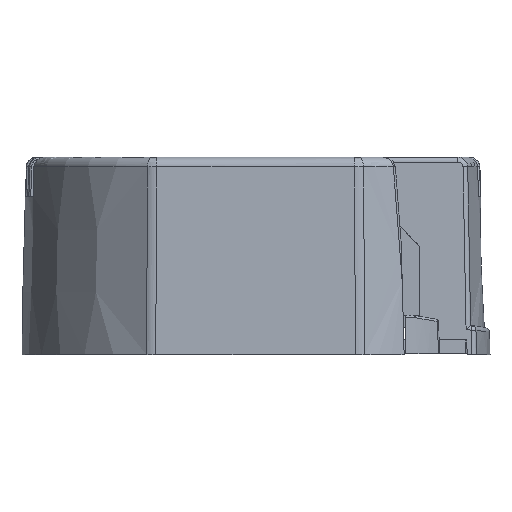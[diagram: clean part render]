
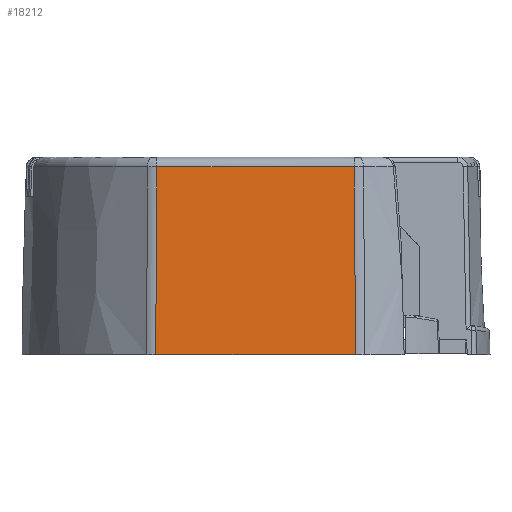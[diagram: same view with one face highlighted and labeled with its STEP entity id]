
A CAD part, left-side view. The second image highlights one B-rep face of the part: STEP entity #18212.
In plain terms, the highlighted planar face has unit normal (-1, 0, 0.026).
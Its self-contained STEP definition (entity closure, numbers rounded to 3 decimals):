
#181=CARTESIAN_POINT('',(-21.25,7.989,0.));
#183=DIRECTION('',(0.,-1.,0.));
#184=VECTOR('',#183,20.249);
#185=CARTESIAN_POINT('',(-21.25,7.989,0.));
#186=LINE('',#185,#184);
#4746=CARTESIAN_POINT('',(-20.752,7.866,19.026));
#4773=CARTESIAN_POINT('',(-20.752,-12.136,
19.026));
#5401=CARTESIAN_POINT('',(-21.25,7.989,
0.));
#5402=CARTESIAN_POINT('',(-21.084,7.948,6.342));
#5403=CARTESIAN_POINT('',(-20.918,7.906,12.684));
#5404=CARTESIAN_POINT('',(-20.752,7.866,19.026));
#5406=DIRECTION('',(0.,-1.,0.));
#5407=VECTOR('',#5406,20.001);
#5408=CARTESIAN_POINT('',(-20.752,7.866,19.026));
#5409=LINE('',#5408,#5407);
#5410=CARTESIAN_POINT('',(-20.752,-12.136,
19.026));
#5411=CARTESIAN_POINT('',(-20.918,-12.177,
12.684));
#5412=CARTESIAN_POINT('',(-21.084,-12.219,
6.342));
#5413=CARTESIAN_POINT('',(-21.25,-12.26,
0.));
#11557=VERTEX_POINT('',#181);
#11558=CARTESIAN_POINT('',(-21.25,-12.26,
0.));
#11559=VERTEX_POINT('',#11558);
#11872=VERTEX_POINT('',#4746);
#11873=VERTEX_POINT('',#4773);
#18201=CARTESIAN_POINT('',(-21.25,10.273,0.));
#18202=DIRECTION('',(-1.,0.,0.026));
#18203=DIRECTION('',(0.026,0.,1.));
#18204=AXIS2_PLACEMENT_3D('',#18201,#18202,#18203);
#18205=PLANE('',#18204);
#18206=ORIENTED_EDGE('',*,*,#17678,.T.);
#18207=ORIENTED_EDGE('',*,*,#17719,.T.);
#18208=ORIENTED_EDGE('',*,*,#18192,.T.);
#18209=ORIENTED_EDGE('',*,*,#13524,.F.);
#18210=EDGE_LOOP('',(#18206,#18207,#18208,#18209));
#18211=FACE_OUTER_BOUND('',#18210,.F.);
#18212=ADVANCED_FACE('',(#18211),#18205,.T.);
#5405=B_SPLINE_CURVE_WITH_KNOTS('',3,(#5401,#5402,#5403,#5404),.UNSPECIFIED.,
.F.,.F.,(4,4),(0.,1.),.UNSPECIFIED.);
#5414=B_SPLINE_CURVE_WITH_KNOTS('',3,(#5410,#5411,#5412,#5413),.UNSPECIFIED.,
.F.,.F.,(4,4),(0.,1.),.UNSPECIFIED.);
#13524=EDGE_CURVE('',#11557,#11559,#186,.T.);
#17678=EDGE_CURVE('',#11557,#11872,#5405,.T.);
#17719=EDGE_CURVE('',#11872,#11873,#5409,.T.);
#18192=EDGE_CURVE('',#11873,#11559,#5414,.T.);
